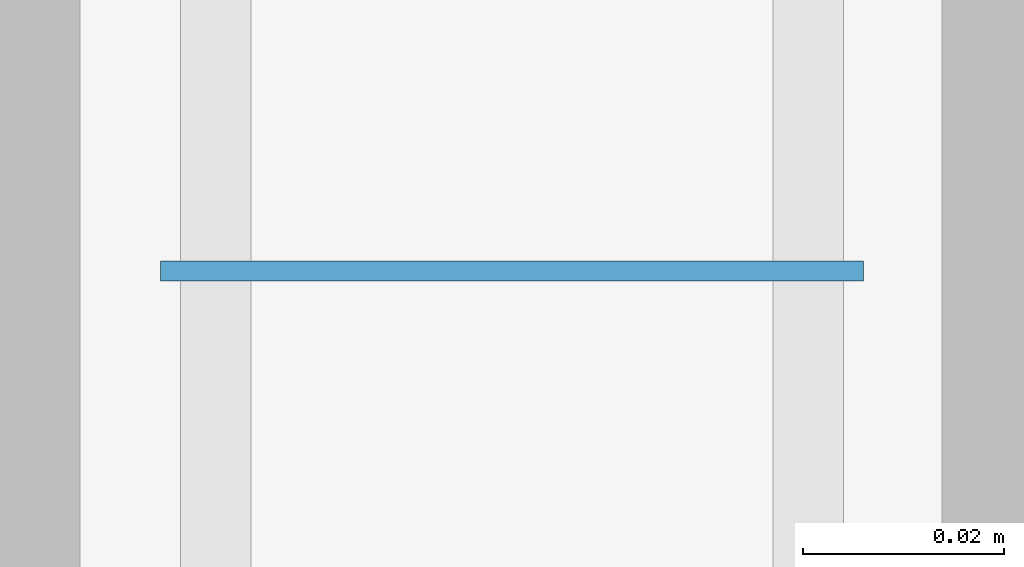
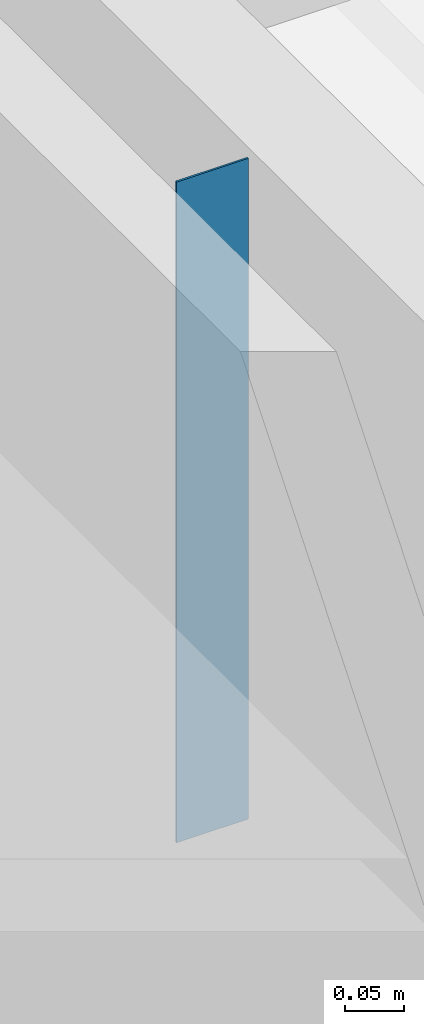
# One storey, part 19 of 32: 1 wall, 1 opening.
"""IFC2X3 building model written with IfcOpenShell, lengths in metres."""

from ifc_helpers import new_model, entity, si_unit, converted_unit, derived_unit, direction, frame, frame_2d, origin, place, context, subcontext, project, spatial, rectangle, extrude, faceted_brep, material, layer, layer_set, layer_usage, type_object, element, save


model = new_model("IFC2X3")

# Units and contexts
model_context = context("Model", 3, precision=1e-05, world=origin(), true_north=direction((6.12303176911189e-17, 1.0)))
plan_context = context("Plan", 3, precision=1e-05, world=origin(), true_north=direction((6.12303176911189e-17, 1.0)))
body_context = subcontext(model_context, "Body", "Model", "MODEL_VIEW")
ifc_project = project(units=[si_unit("LENGTHUNIT", "METRE"), si_unit("AREAUNIT", "SQUARE_METRE"), si_unit("VOLUMEUNIT", "CUBIC_METRE"), converted_unit("PLANEANGLEUNIT", "DEGREE", entity("IfcRatioMeasure", 0.0174532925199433), si_unit("PLANEANGLEUNIT", "RADIAN"), dimensions=[0, 0, 0, 0, 0, 0, 0]), si_unit("MASSUNIT", "GRAM", prefix="KILO"), derived_unit("MASSDENSITYUNIT", [(si_unit("MASSUNIT", "GRAM", prefix="KILO"), 1), (si_unit("LENGTHUNIT", "METRE"), -3)]), derived_unit("MOMENTOFINERTIAUNIT", [(si_unit("LENGTHUNIT", "METRE"), 4)]), si_unit("TIMEUNIT", "SECOND"), si_unit("FREQUENCYUNIT", "HERTZ"), si_unit("THERMODYNAMICTEMPERATUREUNIT", "DEGREE_CELSIUS"), derived_unit("THERMALTRANSMITTANCEUNIT", [(si_unit("MASSUNIT", "GRAM", prefix="KILO"), 1), (si_unit("THERMODYNAMICTEMPERATUREUNIT", "KELVIN"), -1), (si_unit("TIMEUNIT", "SECOND"), -3)]), derived_unit("VOLUMETRICFLOWRATEUNIT", [(si_unit("LENGTHUNIT", "METRE"), 3), (si_unit("TIMEUNIT", "SECOND"), -1)]), si_unit("ELECTRICCURRENTUNIT", "AMPERE"), si_unit("ELECTRICVOLTAGEUNIT", "VOLT"), si_unit("POWERUNIT", "WATT"), si_unit("FORCEUNIT", "NEWTON", prefix="KILO"), si_unit("ILLUMINANCEUNIT", "LUX"), si_unit("LUMINOUSFLUXUNIT", "LUMEN"), si_unit("LUMINOUSINTENSITYUNIT", "CANDELA"), derived_unit("USERDEFINED", [(si_unit("MASSUNIT", "GRAM", prefix="KILO"), -1), (si_unit("LENGTHUNIT", "METRE"), -2), (si_unit("TIMEUNIT", "SECOND"), 3), (si_unit("LUMINOUSFLUXUNIT", "LUMEN"), 1)]), derived_unit("LINEARVELOCITYUNIT", [(si_unit("LENGTHUNIT", "METRE"), 1), (si_unit("TIMEUNIT", "SECOND"), -1)]), si_unit("PRESSUREUNIT", "PASCAL"), derived_unit("USERDEFINED", [(si_unit("LENGTHUNIT", "METRE"), -2), (si_unit("MASSUNIT", "GRAM", prefix="KILO"), 1), (si_unit("TIMEUNIT", "SECOND"), -2)]), derived_unit("LINEARFORCEUNIT", [(si_unit("MASSUNIT", "GRAM", prefix="KILO"), 1), (si_unit("LENGTHUNIT", "METRE"), 1), (si_unit("TIMEUNIT", "SECOND"), -2), (si_unit("LENGTHUNIT", "METRE"), -1)]), derived_unit("PLANARFORCEUNIT", [(si_unit("MASSUNIT", "GRAM", prefix="KILO"), 1), (si_unit("LENGTHUNIT", "METRE"), 1), (si_unit("TIMEUNIT", "SECOND"), -2), (si_unit("LENGTHUNIT", "METRE"), -2)])], contexts=[model_context, plan_context])

# Site, building, storey
site_placement = place(None, origin())
site = spatial("IfcSite", under=ifc_project, at=site_placement, Name="Default", CompositionType="ELEMENT")
building_placement = place(site_placement, origin())
building = spatial("IfcBuilding", under=site, at=building_placement, CompositionType="ELEMENT")
storey_placement = place(building_placement, origin())
storey = spatial("IfcBuildingStorey", under=building, at=storey_placement, Name="0 Mairie RDC 0.00", CompositionType="ELEMENT", Elevation=-1.94916083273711e-14)

# Wall, opening
ifc_material_1 = material(Name="Plâtre")
ifc_layer_1 = layer(ifc_material_1, 0.01)
ifc_material_2 = material(Name="Maçonnerie - Isolant")
ifc_layer_2 = layer(ifc_material_2, 0.05)
ifc_layer_3 = layer(ifc_material_1, 0.01)
ifc_layer_set = layer_set([ifc_layer_1, ifc_layer_2, ifc_layer_3], Name="Mur de base:A cloison placostil 72 sèche")
ifc_layer_usage = layer_usage(ifc_layer_set, "AXIS2", "NEGATIVE", 0.035)
wall_type = type_object("IfcWallType", Name="Murs : Mur de base : A cloison placostil 72 sèche", PredefinedType="STANDARD", material=ifc_layer_set)
wall_placement = place(storey_placement, frame((-14.0896238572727, -5.59453403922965, 2.12), z_axis=(0.0, 0.0, 1.0), x_axis=(0.0, 1.0, 0.0)))
wall = element("IfcWallStandardCase", 1, at=wall_placement, inside=storey, type_object=wall_type, material=ifc_layer_usage, Name="Murs : Mur de base : A cloison placostil 72 sèche", ObjectType="Mur de base:A cloison placostil 72 sèche", context=body_context, shape_type="SweptSolid", body=[
    extrude(rectangle(XDim=0.00199999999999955, YDim=0.0700000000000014, at=frame_2d((0.000999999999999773, 0.0), x_axis=(-1.0, 0.0))), origin(), (0.0, 0.0, 1.0), 0.679999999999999),
])
opening_placement = place(wall_placement, frame((-2.40922970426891, 0.0400000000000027, -2.12), z_axis=(0.0, 0.0, 1.0), x_axis=(0.0, -1.0, 0.0)))
element("IfcOpeningElement", 2, at=opening_placement, cuts=wall, Name="Murs : Mur de base : A cloison placostil 72 sèche", ObjectType="Opening", context=body_context, shape_type="Brep", body=[
    faceted_brep([(0.0, 2.88, 0.0), (0.0800000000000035, 2.88, 0.0), (0.0800000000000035, 1.42, 0.0), (0.0750000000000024, 1.42, 0.0), (0.0750000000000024, 0.0229999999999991, 0.0), (0.0800000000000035, 0.0229999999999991, 0.0), (0.0800000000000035, 0.0, 0.0), (0.0, 0.0, 0.0), (0.0, 0.0229999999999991, 0.0), (0.00500000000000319, 0.0229999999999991, 0.0), (0.00500000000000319, 1.42, 0.0), (0.0, 1.42, 0.0), (0.0, 1.42, 2.051), (0.0, 0.0229999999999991, 2.051), (0.0, 0.0, 2.12), (0.0, 2.88, 2.12), (0.00500000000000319, 1.42, 2.051), (0.00500000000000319, 0.0229999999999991, 2.051), (0.0800000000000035, 0.0, 2.12), (0.0800000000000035, 0.0230000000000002, 2.051), (0.0800000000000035, 1.42, 2.051), (0.0800000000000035, 2.88, 2.12), (0.0750000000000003, 0.0229999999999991, 2.051), (0.0750000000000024, 1.42, 2.051)], [[[0, 1, 2, 3, 4, 5, 6, 7, 8, 9, 10, 11]], [[11, 12, 13, 8, 7, 14, 15, 0]], [[10, 16, 12, 11]], [[9, 17, 16, 10]], [[8, 13, 17, 9]], [[6, 18, 14, 7]], [[5, 19, 20, 2, 1, 21, 18, 6]], [[4, 22, 19, 5]], [[3, 23, 22, 4]], [[2, 20, 23, 3]], [[15, 21, 1, 0]], [[21, 15, 14, 18]], [[12, 16, 17, 13]], [[19, 22, 23, 20]]]),
])

save(model, "model.ifc")
